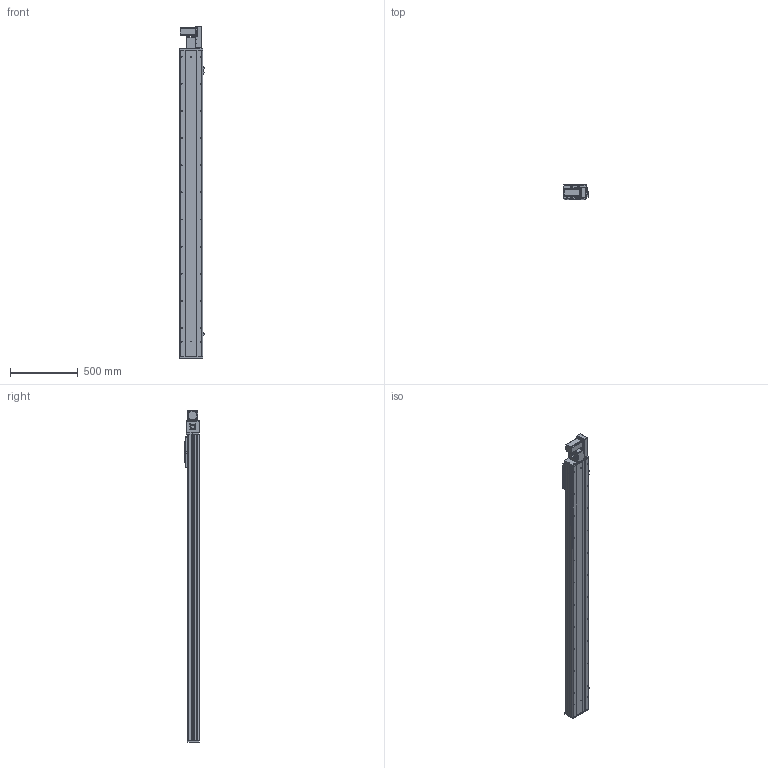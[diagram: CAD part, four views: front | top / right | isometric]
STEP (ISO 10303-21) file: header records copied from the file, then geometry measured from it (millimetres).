
FILE_DESCRIPTION (( 'STEP AP203' ), '1' );
FILE_NAME ('Y170CB-D105-S1950-BR-P400W.STEP', '2020-02-19T09:35:32', ( '微软用户' ), ( '微软中国' ), 'SwSTEP 2.0', 'SolidWorks 2017', '' );
FILE_SCHEMA (( 'CONFIG_CONTROL_DESIGN' ));
Length unit declared in the file: millimetre
Products named in the file (17): Y170CB-陔俋离換覜結え---; Y170CB-D105-S1950-BR-P400W; 70B喘謫眊----; B-源倛裔啣; 17B-耜蚾蟀諉啣----; 0B-萇儂楊擘啣; san松下电机400不带刹车----; Y70俋欶BR----; 70CB-掛极-; --70CB --喘謫眊楊擘啣-; 70CB-耜裔啣-; 70C--詩湍揤踡え-; 70CB--耜裔; 70C-雄赽釱-奻-; 0C--雄赽釱俋欶-170; 70CB-詩湍--; Y100-135俋离換覜ん--
Assembly tree (20 placements, depth 2):
  Y170CB-D105-S1950-BR-P400W
    70B喘謫眊----
    B-源倛裔啣
    17B-耜蚾蟀諉啣----
    0B-萇儂楊擘啣
    san松下电机400不带刹车----
    Y70俋欶BR----
    70CB-掛极-
    --70CB --喘謫眊楊擘啣-
    70CB-耜裔啣-  x2
    70C--詩湍揤踡え-  x2
    70CB--耜裔
    70C-雄赽釱-奻-
    0C--雄赽釱俋欶-170
    70CB-詩湍--
    Y100-135俋离換覜ん--  x3
    Y170CB-陔俋离換覜結え---
Bounding box: 183.5 x 107 x 2447 mm (x, y, z)
Volume: 10272540.1 mm3; surface area: 3695748.3 mm2
Topology: 20 solids, 20 shells, 1033 faces, 2777 edges, 1842 vertices
Faces by surface type: cylinder 547, plane 462, cone 24
Entity records: 32919 total; most frequent: CARTESIAN_POINT 6081, DIRECTION 5356, ORIENTED_EDGE 5036, EDGE_CURVE 2518, AXIS2_PLACEMENT_3D 1965, VERTEX_POINT 1672, LINE 1426, VECTOR 1426
